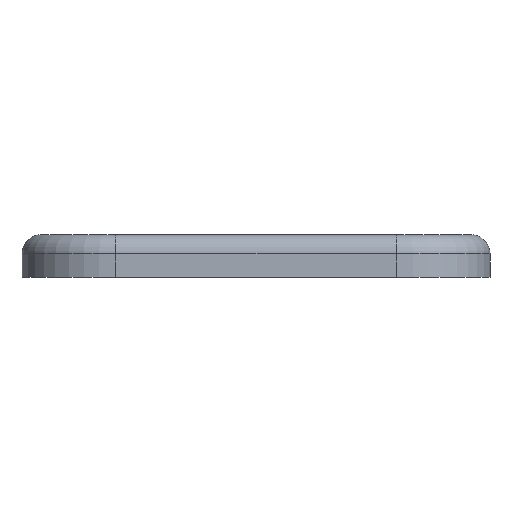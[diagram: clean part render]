
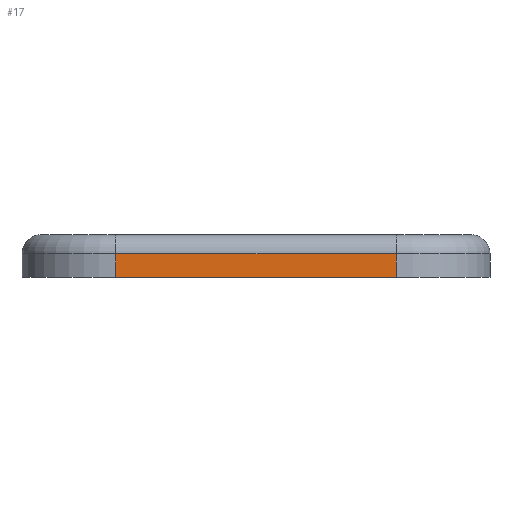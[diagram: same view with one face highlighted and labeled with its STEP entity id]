
A CAD part, left-side view. The second image highlights one B-rep face of the part: STEP entity #17.
In plain terms, the highlighted planar face has unit normal (-1, 0, 0).
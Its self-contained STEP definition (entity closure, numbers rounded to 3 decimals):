
#17 = ADVANCED_FACE('',(#18),#32,.F.);
#18 = FACE_BOUND('',#19,.F.);
#19 = EDGE_LOOP('',(#20,#55,#83,#111));
#20 = ORIENTED_EDGE('',*,*,#21,.F.);
#21 = EDGE_CURVE('',#22,#24,#26,.T.);
#22 = VERTEX_POINT('',#23);
#23 = CARTESIAN_POINT('',(-6.5,-3.3,0.));
#24 = VERTEX_POINT('',#25);
#25 = CARTESIAN_POINT('',(-6.5,-3.3,0.55));
#26 = SURFACE_CURVE('',#27,(#31,#43),.PCURVE_S1.);
#27 = LINE('',#28,#29);
#28 = CARTESIAN_POINT('',(-6.5,-3.3,0.));
#29 = VECTOR('',#30,1.);
#30 = DIRECTION('',(0.,0.,1.));
#31 = PCURVE('',#32,#37);
#32 = PLANE('',#33);
#33 = AXIS2_PLACEMENT_3D('',#34,#35,#36);
#34 = CARTESIAN_POINT('',(-6.5,-5.5,0.));
#35 = DIRECTION('',(1.,0.,0.));
#36 = DIRECTION('',(0.,0.,1.));
#37 = DEFINITIONAL_REPRESENTATION('',(#38),#42);
#38 = LINE('',#39,#40);
#39 = CARTESIAN_POINT('',(0.,-2.2));
#40 = VECTOR('',#41,1.);
#41 = DIRECTION('',(1.,0.));
#42 = ( GEOMETRIC_REPRESENTATION_CONTEXT(2) 
PARAMETRIC_REPRESENTATION_CONTEXT() REPRESENTATION_CONTEXT('2D SPACE',''
  ) );
#43 = PCURVE('',#44,#49);
#44 = CYLINDRICAL_SURFACE('',#45,2.2);
#45 = AXIS2_PLACEMENT_3D('',#46,#47,#48);
#46 = CARTESIAN_POINT('',(-4.3,-3.3,0.));
#47 = DIRECTION('',(0.,0.,1.));
#48 = DIRECTION('',(-1.,-0.,0.));
#49 = DEFINITIONAL_REPRESENTATION('',(#50),#54);
#50 = LINE('',#51,#52);
#51 = CARTESIAN_POINT('',(0.,0.));
#52 = VECTOR('',#53,1.);
#53 = DIRECTION('',(0.,1.));
#54 = ( GEOMETRIC_REPRESENTATION_CONTEXT(2) 
PARAMETRIC_REPRESENTATION_CONTEXT() REPRESENTATION_CONTEXT('2D SPACE',''
  ) );
#55 = ORIENTED_EDGE('',*,*,#56,.T.);
#56 = EDGE_CURVE('',#22,#57,#59,.T.);
#57 = VERTEX_POINT('',#58);
#58 = CARTESIAN_POINT('',(-6.5,3.3,0.));
#59 = SURFACE_CURVE('',#60,(#64,#71),.PCURVE_S1.);
#60 = LINE('',#61,#62);
#61 = CARTESIAN_POINT('',(-6.5,-5.5,0.));
#62 = VECTOR('',#63,1.);
#63 = DIRECTION('',(0.,1.,0.));
#64 = PCURVE('',#32,#65);
#65 = DEFINITIONAL_REPRESENTATION('',(#66),#70);
#66 = LINE('',#67,#68);
#67 = CARTESIAN_POINT('',(0.,0.));
#68 = VECTOR('',#69,1.);
#69 = DIRECTION('',(0.,-1.));
#70 = ( GEOMETRIC_REPRESENTATION_CONTEXT(2) 
PARAMETRIC_REPRESENTATION_CONTEXT() REPRESENTATION_CONTEXT('2D SPACE',''
  ) );
#71 = PCURVE('',#72,#77);
#72 = PLANE('',#73);
#73 = AXIS2_PLACEMENT_3D('',#74,#75,#76);
#74 = CARTESIAN_POINT('',(-6.5,-5.5,0.));
#75 = DIRECTION('',(0.,0.,1.));
#76 = DIRECTION('',(1.,0.,0.));
#77 = DEFINITIONAL_REPRESENTATION('',(#78),#82);
#78 = LINE('',#79,#80);
#79 = CARTESIAN_POINT('',(0.,0.));
#80 = VECTOR('',#81,1.);
#81 = DIRECTION('',(0.,1.));
#82 = ( GEOMETRIC_REPRESENTATION_CONTEXT(2) 
PARAMETRIC_REPRESENTATION_CONTEXT() REPRESENTATION_CONTEXT('2D SPACE',''
  ) );
#83 = ORIENTED_EDGE('',*,*,#84,.T.);
#84 = EDGE_CURVE('',#57,#85,#87,.T.);
#85 = VERTEX_POINT('',#86);
#86 = CARTESIAN_POINT('',(-6.5,3.3,0.55));
#87 = SURFACE_CURVE('',#88,(#92,#99),.PCURVE_S1.);
#88 = LINE('',#89,#90);
#89 = CARTESIAN_POINT('',(-6.5,3.3,0.));
#90 = VECTOR('',#91,1.);
#91 = DIRECTION('',(0.,0.,1.));
#92 = PCURVE('',#32,#93);
#93 = DEFINITIONAL_REPRESENTATION('',(#94),#98);
#94 = LINE('',#95,#96);
#95 = CARTESIAN_POINT('',(0.,-8.8));
#96 = VECTOR('',#97,1.);
#97 = DIRECTION('',(1.,0.));
#98 = ( GEOMETRIC_REPRESENTATION_CONTEXT(2) 
PARAMETRIC_REPRESENTATION_CONTEXT() REPRESENTATION_CONTEXT('2D SPACE',''
  ) );
#99 = PCURVE('',#100,#105);
#100 = CYLINDRICAL_SURFACE('',#101,2.2);
#101 = AXIS2_PLACEMENT_3D('',#102,#103,#104);
#102 = CARTESIAN_POINT('',(-4.3,3.3,0.));
#103 = DIRECTION('',(0.,0.,1.));
#104 = DIRECTION('',(-1.,-0.,0.));
#105 = DEFINITIONAL_REPRESENTATION('',(#106),#110);
#106 = LINE('',#107,#108);
#107 = CARTESIAN_POINT('',(-0.,0.));
#108 = VECTOR('',#109,1.);
#109 = DIRECTION('',(-0.,1.));
#110 = ( GEOMETRIC_REPRESENTATION_CONTEXT(2) 
PARAMETRIC_REPRESENTATION_CONTEXT() REPRESENTATION_CONTEXT('2D SPACE',''
  ) );
#111 = ORIENTED_EDGE('',*,*,#112,.F.);
#112 = EDGE_CURVE('',#24,#85,#113,.T.);
#113 = SURFACE_CURVE('',#114,(#118,#125),.PCURVE_S1.);
#114 = LINE('',#115,#116);
#115 = CARTESIAN_POINT('',(-6.5,-3.3,0.55));
#116 = VECTOR('',#117,1.);
#117 = DIRECTION('',(0.,1.,0.));
#118 = PCURVE('',#32,#119);
#119 = DEFINITIONAL_REPRESENTATION('',(#120),#124);
#120 = LINE('',#121,#122);
#121 = CARTESIAN_POINT('',(0.55,-2.2));
#122 = VECTOR('',#123,1.);
#123 = DIRECTION('',(0.,-1.));
#124 = ( GEOMETRIC_REPRESENTATION_CONTEXT(2) 
PARAMETRIC_REPRESENTATION_CONTEXT() REPRESENTATION_CONTEXT('2D SPACE',''
  ) );
#125 = PCURVE('',#126,#131);
#126 = CYLINDRICAL_SURFACE('',#127,0.45);
#127 = AXIS2_PLACEMENT_3D('',#128,#129,#130);
#128 = CARTESIAN_POINT('',(-6.05,-3.3,0.55));
#129 = DIRECTION('',(0.,1.,0.));
#130 = DIRECTION('',(-1.,0.,0.));
#131 = DEFINITIONAL_REPRESENTATION('',(#132),#136);
#132 = LINE('',#133,#134);
#133 = CARTESIAN_POINT('',(0.,0.));
#134 = VECTOR('',#135,1.);
#135 = DIRECTION('',(0.,1.));
#136 = ( GEOMETRIC_REPRESENTATION_CONTEXT(2) 
PARAMETRIC_REPRESENTATION_CONTEXT() REPRESENTATION_CONTEXT('2D SPACE',''
  ) );
